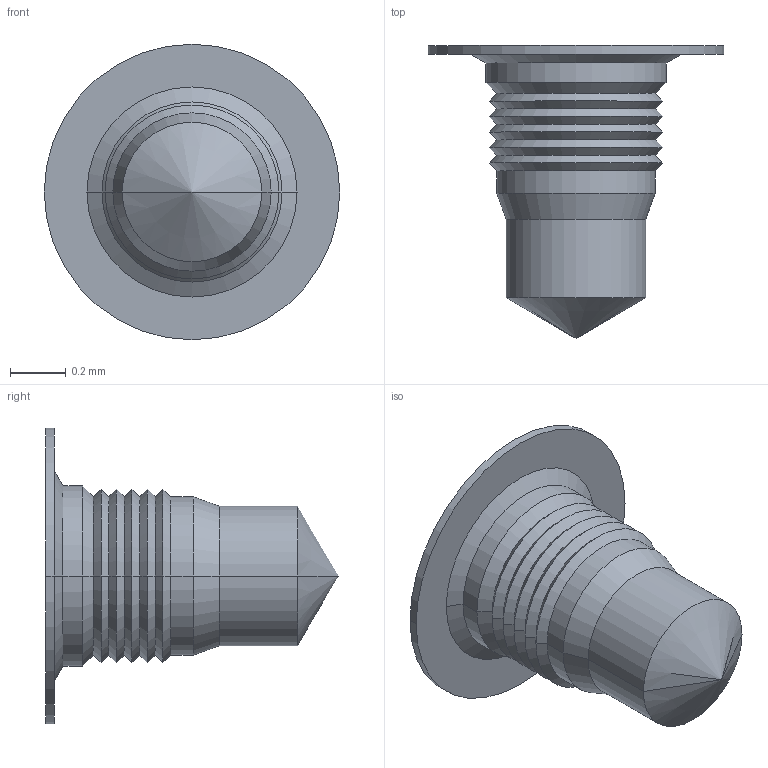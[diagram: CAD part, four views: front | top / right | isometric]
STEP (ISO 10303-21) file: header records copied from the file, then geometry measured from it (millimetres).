
FILE_DESCRIPTION((''),'2;1');
FILE_NAME('0003-3D.stp','2011-04-18T11:00:39',(''),(''),'Mechanical Desktop 2009','Mechanical Desktop 2009',', , ');
FILE_SCHEMA(('CONFIG_CONTROL_DESIGN'));
Length unit declared in the file: millimetre
Products named in the file (1): Product
Bounding box: 1.06 x 1.05 x 1.06 mm (x, y, z)
Volume: 0.3 mm3; surface area: 3.5 mm2
Topology: 1 solids, 1 shells, 38 faces, 76 edges, 39 vertices
Faces by surface type: cone 28, cylinder 8, plane 2
Entity records: 1043 total; most frequent: DIRECTION 190, CARTESIAN_POINT 152, ORIENTED_EDGE 148, AXIS2_PLACEMENT_3D 77, EDGE_CURVE 74, VERTEX_POINT 39, EDGE_LOOP 39, CIRCLE 38
